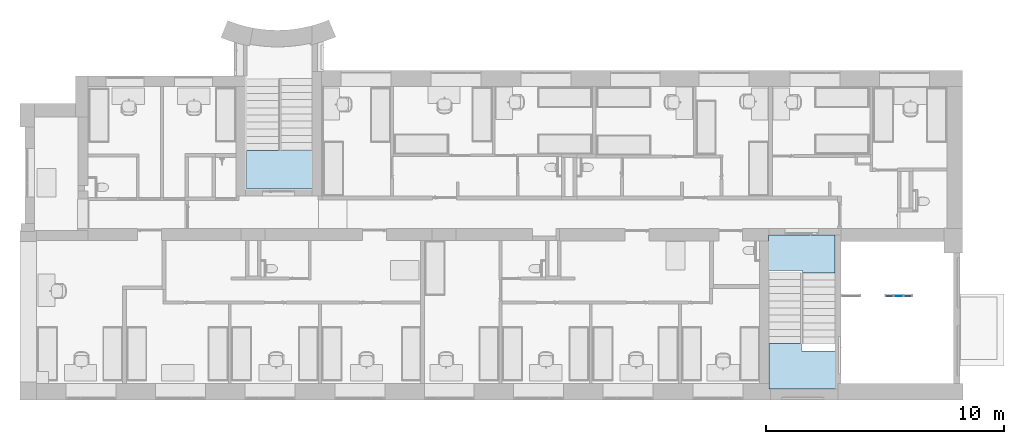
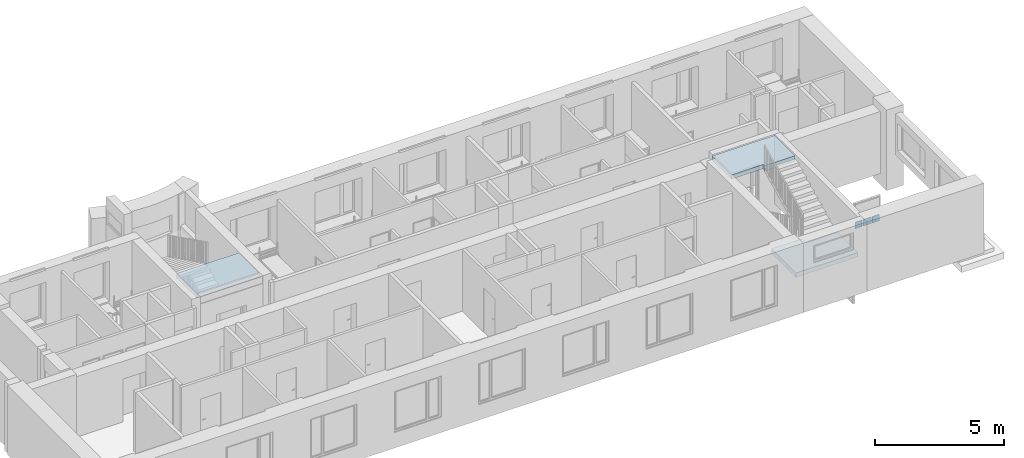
# One storey, part 3 of 46: 3 plates, 3 slabs, 4 elements without a shape of their own.
"""IFC2X3 building model written with IfcOpenShell, lengths in millimetres."""

from ifc_helpers import new_model, entity, si_unit, converted_unit, derived_unit, direction, frame, origin, origin_2d_with_axis, place, context, subcontext, project, spatial, rectangle, extrude, faceted_brep, source, transform, mapped, type_object, type_shapes, element, aggregate, save


model = new_model("IFC2X3")

# Units and contexts
model_context = context("Model", 3, precision=0.01, world=origin(), true_north=direction((6.12303176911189e-17, 1.0)))
body_context = subcontext(model_context, "Body", "Model", "MODEL_VIEW")
ifc_project = project(units=[si_unit("LENGTHUNIT", "METRE", prefix="MILLI"), si_unit("AREAUNIT", "SQUARE_METRE"), si_unit("VOLUMEUNIT", "CUBIC_METRE"), converted_unit("PLANEANGLEUNIT", "DEGREE", entity("IfcRatioMeasure", 0.0174532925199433), si_unit("PLANEANGLEUNIT", "RADIAN"), dimensions=[0, 0, 0, 0, 0, 0, 0]), si_unit("MASSUNIT", "GRAM", prefix="KILO"), derived_unit("MASSDENSITYUNIT", [(si_unit("MASSUNIT", "GRAM", prefix="KILO"), 1), (si_unit("LENGTHUNIT", "METRE"), -3)]), si_unit("TIMEUNIT", "SECOND"), si_unit("FREQUENCYUNIT", "HERTZ"), si_unit("THERMODYNAMICTEMPERATUREUNIT", "DEGREE_CELSIUS"), derived_unit("THERMALTRANSMITTANCEUNIT", [(si_unit("MASSUNIT", "GRAM", prefix="KILO"), 1), (si_unit("THERMODYNAMICTEMPERATUREUNIT", "KELVIN"), -1), (si_unit("TIMEUNIT", "SECOND"), -3)]), derived_unit("VOLUMETRICFLOWRATEUNIT", [(si_unit("LENGTHUNIT", "METRE"), 3), (si_unit("TIMEUNIT", "SECOND"), -1)]), si_unit("ELECTRICCURRENTUNIT", "AMPERE"), si_unit("ELECTRICVOLTAGEUNIT", "VOLT"), si_unit("POWERUNIT", "WATT"), si_unit("FORCEUNIT", "NEWTON", prefix="KILO"), si_unit("ILLUMINANCEUNIT", "LUX"), si_unit("LUMINOUSFLUXUNIT", "LUMEN"), si_unit("LUMINOUSINTENSITYUNIT", "CANDELA"), derived_unit("USERDEFINED", [(si_unit("MASSUNIT", "GRAM", prefix="KILO"), -1), (si_unit("LENGTHUNIT", "METRE"), -2), (si_unit("TIMEUNIT", "SECOND"), 3), (si_unit("LUMINOUSFLUXUNIT", "LUMEN"), 1)]), derived_unit("LINEARVELOCITYUNIT", [(si_unit("LENGTHUNIT", "METRE"), 1), (si_unit("TIMEUNIT", "SECOND"), -1)]), si_unit("PRESSUREUNIT", "PASCAL"), derived_unit("USERDEFINED", [(si_unit("LENGTHUNIT", "METRE"), -2), (si_unit("MASSUNIT", "GRAM", prefix="KILO"), 1), (si_unit("TIMEUNIT", "SECOND"), -2)]), derived_unit("LINEARFORCEUNIT", [(si_unit("MASSUNIT", "GRAM", prefix="KILO"), 1), (si_unit("LENGTHUNIT", "METRE"), 1), (si_unit("TIMEUNIT", "SECOND"), -2), (si_unit("LENGTHUNIT", "METRE"), -1)]), derived_unit("PLANARFORCEUNIT", [(si_unit("MASSUNIT", "GRAM", prefix="KILO"), 1), (si_unit("LENGTHUNIT", "METRE"), 1), (si_unit("TIMEUNIT", "SECOND"), -2), (si_unit("LENGTHUNIT", "METRE"), -2)])], contexts=[model_context])

# Site, building, storey
site_placement = place(None, origin())
site = spatial("IfcSite", under=ifc_project, at=site_placement, Name="Default", CompositionType="ELEMENT")
building_placement = place(site_placement, origin())
building = spatial("IfcBuilding", under=site, at=building_placement, Name="SMA ARH", CompositionType="ELEMENT")
storey_placement = place(building_placement, origin())
storey = spatial("IfcBuildingStorey", under=building, at=storey_placement, Name="1 Korrus", CompositionType="ELEMENT", Elevation=0.0)

# Stair, slab
stair_1_placement = place(storey_placement, origin())
stair_1 = element("IfcStair", 1, at=stair_1_placement, inside=storey, Name="Cast-In-Place Stair:Stair", ObjectType="Cast-In-Place Stair:Cast-In-Place Stair", ShapeType="STRAIGHT_RUN_STAIR")
slab_type_1 = type_object("IfcSlabType", Name="Monolithic Landing:300 mm Thickness", PredefinedType="LANDING")
slab_1_placement = place(stair_1_placement, frame((30830.0, -230.0, 0.0)))
slab_1 = element("IfcSlab", 2, at=slab_1_placement, type_object=slab_type_1, Name="Cast-In-Place Stair:Stair:916944 Landing 1", ObjectType="Monolithic Landing:300 mm Thickness", PredefinedType="LANDING", context=body_context, shape_type="Brep", body=[
    faceted_brep([(1375.0, 1901.99162016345, 1610.0), (0.0, 1901.99162016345, 1610.0), (0.0, 1781.09521757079, 1610.0), (0.0, 0.0, 1610.0), (2795.0, 0.0, 1610.0), (2795.0, 1596.99162016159, 1610.0), (1375.0, 1596.99162016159, 1610.0), (1375.0, 1781.09521757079, 1610.0), (2795.0, 0.0, 1410.0), (2795.0, 1596.99162016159, 1410.0), (0.0, 1901.99162016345, 1461.81818181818), (0.0, 1901.99162016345, 1350.28450417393), (0.0, 1781.0952175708, 1410.0), (0.0, 0.0, 1410.0), (1375.0, 1781.09521757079, 1410.0), (1375.0, 1596.99162016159, 1410.0), (1375.0, 1901.99162016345, 1461.81818181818), (1375.0, 1901.99162016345, 1350.28450417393)], [[[0, 1, 2, 3, 4, 5, 6, 7]], [[5, 4, 8, 9]], [[1, 10, 11, 12, 13, 3, 2]], [[12, 14, 15, 9, 8, 13]], [[1, 0, 16, 17, 11, 10]], [[14, 12, 11, 17]], [[4, 3, 13, 8]], [[17, 16, 0, 7, 6, 15, 14]], [[6, 5, 9, 15]]]),
])
aggregate(stair_1, [slab_1])

stair_2_placement = place(storey_placement, origin())
stair_2 = element("IfcStair", 3, at=stair_2_placement, inside=storey, Name="Cast-In-Place Stair:Stair", ObjectType="Cast-In-Place Stair:Cast-In-Place Stair", ShapeType="STRAIGHT_RUN_STAIR")
slab_type_2 = type_object("IfcSlabType", Name="Monolithic Landing:300 mm Thickness", PredefinedType="LANDING")
slab_2_placement = place(stair_2_placement, frame((30810.0, 4647.49999999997, 0.0)))
slab_2 = element("IfcSlab", 4, at=slab_2_placement, type_object=slab_type_2, Name="Cast-In-Place Stair:Stair:916967 Landing 1", ObjectType="Monolithic Landing:300 mm Thickness", PredefinedType="LANDING", context=body_context, shape_type="Brep", body=[
    faceted_brep([(1425.0, 0.0, 3250.0), (2800.0, 0.0, 3250.0), (2800.0, 120.896402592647, 3250.0), (2800.0, 1592.5000000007, 3250.0), (0.0, 1592.50000000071, 3250.0), (0.0, 100.0, 3250.0), (1425.0, 100.0, 3250.0), (0.0, 1592.50000000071, 3050.0), (0.0, 100.0, 3050.0), (2800.0, 0.0, 3101.8181818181), (2800.0, 0.0, 2990.28450417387), (2800.0, 120.896402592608, 3050.0), (2800.0, 1592.5000000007, 3050.0), (1425.0, 120.896402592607, 3050.0), (1425.0, 100.0, 3050.0), (1425.0, 0.0, 3101.8181818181), (1425.0, 0.0, 2990.28450417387)], [[[0, 1, 2, 3, 4, 5, 6]], [[5, 4, 7, 8]], [[1, 9, 10, 11, 12, 3, 2]], [[4, 3, 12, 7]], [[11, 13, 14, 8, 7, 12]], [[1, 0, 15, 16, 10, 9]], [[16, 13, 11, 10]], [[6, 5, 8, 14]], [[0, 6, 14, 13, 16, 15]]]),
])
aggregate(stair_2, [slab_2])

# Curtain wall, plates
curtain_wall_type = type_object("IfcCurtainWallType", Name="Curtain Wall:Curtain Wall SKF-02", PredefinedType="NOTDEFINED")
curtain_wall_placement = place(storey_placement, origin())
curtain_wall = element("IfcCurtainWall", 5, at=curtain_wall_placement, inside=storey, type_object=curtain_wall_type, Name="Curtain Wall:Curtain Wall SKF-02", ObjectType="Curtain Wall:Curtain Wall SKF-02")
plate_type_1 = type_object("IfcPlateType", Name="System Panel:Glazed", PredefinedType="CURTAIN_PANEL")
shared_shape_1 = source(origin(), body_context, "Body", "SweptSolid", [
    extrude(rectangle(XDim=28.0, YDim=304.999999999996, at=origin_2d_with_axis()), frame((0.0, -14.0, 0.0), z_axis=(0.0, 0.0, 1.0), x_axis=(0.0, 1.0, 0.0)), (0.0, 0.0, 1.0), 300.000000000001),
])
type_shapes(plate_type_1, [shared_shape_1])
plate_1_placement = place(curtain_wall_placement, frame((35892.5000000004, 3695.0, -370.0)))
plate_1 = element("IfcPlate", 6, at=plate_1_placement, type_object=plate_type_1, Name="System Panel:Glazed", ObjectType="System Panel:Glazed", context=body_context, shape_type="MappedRepresentation", body=[
    mapped(shared_shape_1, transform((0.0, 0.0, 0.0), scale=1.0)),
])
plate_2_placement = place(curtain_wall_placement, frame((36667.5000000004, 3695.0, -370.0)))
plate_2 = element("IfcPlate", 7, at=plate_2_placement, type_object=plate_type_1, Name="System Panel:Glazed", ObjectType="System Panel:Glazed", context=body_context, shape_type="MappedRepresentation", body=[
    mapped(shared_shape_1, transform((0.0, 0.0, 0.0), scale=1.0)),
])
plate_type_2 = type_object("IfcPlateType", Name="System Panel:Glazed", PredefinedType="CURTAIN_PANEL")
shared_shape_2 = source(origin(), body_context, "Body", "SweptSolid", [
    extrude(rectangle(XDim=28.0, YDim=370.000000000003, at=origin_2d_with_axis()), frame((0.0, -14.0, 0.0), z_axis=(0.0, 0.0, 1.0), x_axis=(0.0, 1.0, 0.0)), (0.0, 0.0, 1.0), 300.000000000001),
])
type_shapes(plate_type_2, [shared_shape_2])
plate_3_placement = place(curtain_wall_placement, frame((36280.0, 3695.0, -370.0)))
plate_3 = element("IfcPlate", 8, at=plate_3_placement, type_object=plate_type_2, Name="System Panel:Glazed", ObjectType="System Panel:Glazed", context=body_context, shape_type="MappedRepresentation", body=[
    mapped(shared_shape_2, transform((0.0, 0.0, 0.0), scale=1.0)),
])
aggregate(curtain_wall, [plate_1, plate_3, plate_2])

# Stair, slab
stair_3_placement = place(storey_placement, origin())
stair_3 = element("IfcStair", 9, at=stair_3_placement, inside=storey, Name="Cast-In-Place Stair:Stair", ObjectType="Cast-In-Place Stair:Cast-In-Place Stair", ShapeType="STRAIGHT_RUN_STAIR")
slab_type_3 = type_object("IfcSlabType", Name="Monolithic Landing:300 mm Thickness", PredefinedType="LANDING")
slab_3_placement = place(stair_3_placement, frame((8830.0, 8182.4999999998, 0.0)))
slab_3 = element("IfcSlab", 10, at=slab_3_placement, type_object=slab_type_3, Name="Cast-In-Place Stair:Stair:1077466 Landing 1", ObjectType="Monolithic Landing:300 mm Thickness", PredefinedType="LANDING", context=body_context, shape_type="Brep", body=[
    faceted_brep([(1375.0, 1612.80572404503, 3220.0), (0.0, 1612.80572404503, 3220.0), (0.0, 1491.90932145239, 3220.0), (0.0, 0.0, 3220.0), (2800.0, 0.0, 3220.0), (2800.0, 1612.80572404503, 3220.0), (2800.0, 0.0, 3020.0), (2800.0, 1612.80572404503, 3020.0), (0.0, 1612.80572404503, 3071.8181818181), (0.0, 1612.80572404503, 2960.28450417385), (0.0, 1491.90932145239, 3020.0), (0.0, 0.0, 3020.0), (1375.0, 1491.90932145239, 3020.0), (1375.0, 1612.80572404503, 3020.0), (1375.0, 1612.80572404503, 2960.28450417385)], [[[0, 1, 2, 3, 4, 5]], [[5, 4, 6, 7]], [[1, 8, 9, 10, 11, 3, 2]], [[4, 3, 11, 6]], [[10, 12, 13, 7, 6, 11]], [[1, 0, 13, 14, 9, 8]], [[0, 5, 7, 13]], [[12, 10, 9, 14]], [[13, 12, 14]]]),
])
aggregate(stair_3, [slab_3])

save(model, "model.ifc")
